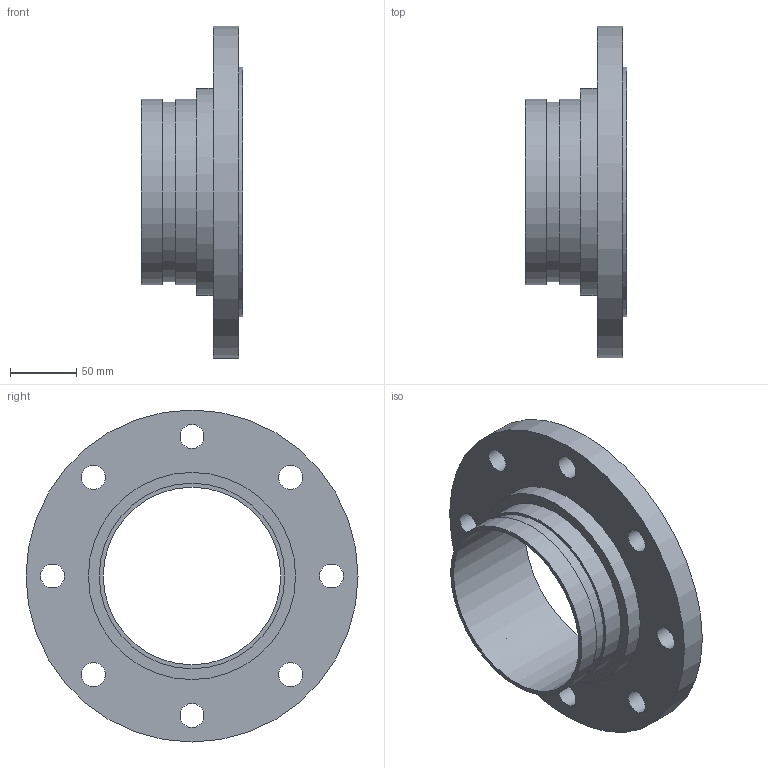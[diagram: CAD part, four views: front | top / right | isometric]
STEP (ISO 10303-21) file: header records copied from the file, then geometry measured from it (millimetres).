
FILE_DESCRIPTION(/* description */ ('VIC FLANGE ADAPTER STYLE 441N','CAx-IF Rec.Pracs.---Representation and Presentation of Product Manufacturing Information (PMI)---4.0---2014-10-13'),/* implementation_level */ '2;1');
FILE_NAME(/* name */ 'C:\Users\kkamble\AppData\Roaming\Autodesk\ApplicationPlugins\Back Up\Victaulic_SS-OGS_Flanged Adapter Nipple_PN10_Style 441N (OGSxFLG)\Victaulic_SS-OGS_Flanged Adapter Nipple_PN10_Style 441N (OGSxFLG)_05.0 (139.7) (125).stp',/* time_stamp */ '2020-08-27T09:31:51+05:00',/* author */ ('jbrannon'),/* organization */ ('Victaulic'),/* preprocessor_version */ 'ST-DEVELOPER v17.2',/* originating_system */ 'Autodesk Inventor 2019',/* authorisation */ '');
FILE_SCHEMA (('AP242_MANAGED_MODEL_BASED_3D_ENGINEERING_MIM_LF { 1 0 10303 442 1 1 4 }'));
Length unit declared in the file: inch
Products named in the file (1): 441N-05.0 (139.7)
Bounding box: 76.2 x 249.94 x 249.94 mm (x, y, z)
Volume: 780535 mm3; surface area: 149463.7 mm2
Topology: 1 solids, 1 shells, 22 faces, 59 edges, 44 vertices
Faces by surface type: cylinder 15, plane 7
Full cylindrical faces by diameter (mm): 18.034 x8, 133.604 x1, 135.484 x1, 139.7 x2, 155.956 x1, 187.96 x1, 249.936 x1
Entity records: 929 total; most frequent: DIRECTION 175, CARTESIAN_POINT 143, ORIENTED_EDGE 118, AXIS2_PLACEMENT_3D 80, EDGE_CURVE 59, EDGE_LOOP 45, CIRCLE 44, VERTEX_POINT 44
